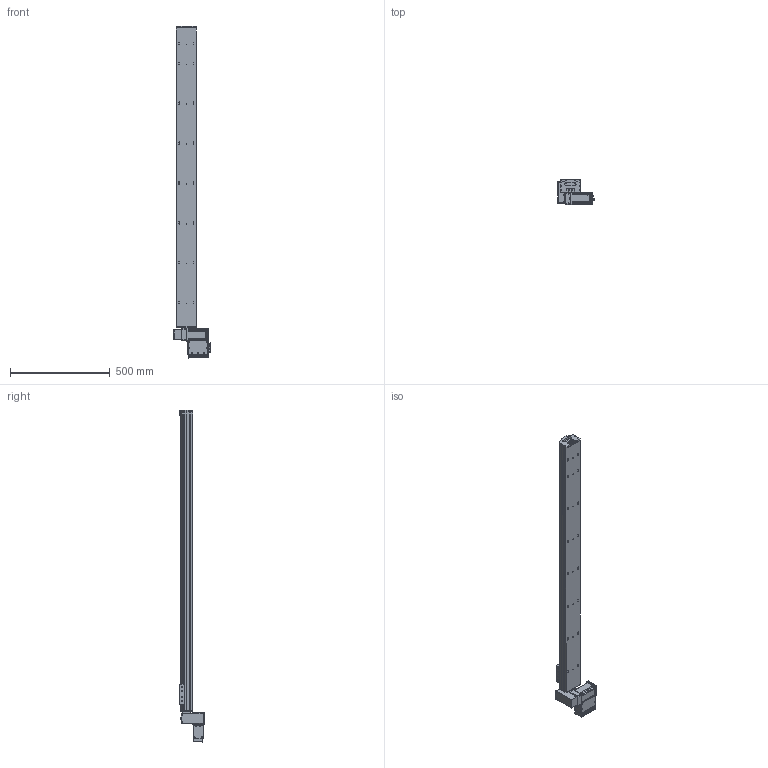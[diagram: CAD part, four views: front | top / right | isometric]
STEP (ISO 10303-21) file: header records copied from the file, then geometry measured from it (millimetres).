
FILE_DESCRIPTION (( 'STEP AP203' ), '1' );
FILE_NAME ('S10 TBH LH S1500.STEP', '2012-06-18T15:29:10', ( 'Conseil Régional Haute-Normandie' ), ( 'Conseil Régional Haute-Normandie' ), 'SwSTEP 2.0', 'SolidWorks 2010', '' );
FILE_SCHEMA (( 'CONFIG_CONTROL_DESIGN' ));
Products named in the file (30): Assem1_7; Couvercle_3; Moteur 60BLDC90A_3; Colonnette ronde_3; Radiateur profil_X2_00E9_X0_ 100x25_3; T_X2_00F4_X0_le Arri_X2_00E8_X0_re_5; palette tbn; plaque de bout s10_Default; Plaque racord_Default; cache t皻e axe_Default; axe1500; S10 TBH LH S1500; Cvis M5 L30_Default; T_X2_00F4_X0_le contre le moteur_5; BU41 Carte Alimentation P05_3; Colonnette_3; BU45 Carte d''axe A11_5; T_X2_00F4_X0_le fond_3; Connecteur rond D10 3cts_5; Connecteur rond D12 4cts_5; Sub D 9cts 90_X2_00B_X0__3; T_X2_00F4_X0_le lat_X2_00E9_X0_rale_5; Vis TF 3 torkx_1_1; cache t皻e_Default; embout; renvoi LH_Default; vis M5 L12_Default; Vis M5 L16-2_Default_1; vis M5 L5_Default; axe 1500
Assembly tree (63 placements, depth 3):
  S10 TBH LH S1500
    renvoi LH_Default
    palette tbn
    vis M5 L12_Default  x4
    vis M5 L5_Default  x4
    cache t皻e_Default  x2
    Assem1_7
      BU41 Carte Alimentation P05_3
      Moteur 60BLDC90A_3
      T_X2_00F4_X0_le fond_3
      T_X2_00F4_X0_le Arri_X2_00E8_X0_re_5
      Vis TF 3 torkx_1_1  x21
      BU45 Carte d''axe A11_5
      Couvercle_3
      Connecteur rond D10 3cts_5  x2
      Colonnette ronde_3
      T_X2_00F4_X0_le lat_X2_00E9_X0_rale_5  x2
      T_X2_00F4_X0_le contre le moteur_5
      Radiateur profil_X2_00E9_X0_ 100x25_3
      Colonnette_3  x2
      Connecteur rond D12 4cts_5
      Sub D 9cts 90_X2_00B_X0__3
    Vis M5 L16-2_Default_1  x4
    Cvis M5 L30_Default  x2
    plaque de bout s10_Default
    Plaque racord_Default
    embout
    cache t皻e axe_Default
    axe1500
      axe 1500
Bounding box: 189.82 x 124.75 x 1666.51 mm (x, y, z)
Volume: 8650438.6 mm3; surface area: 1036302 mm2
Topology: 61 solids, 61 shells, 2321 faces, 5754 edges, 3707 vertices
Faces by surface type: plane 1102, cylinder 994, cone 182, bspline 40, torus 3
Entity records: 48420 total; most frequent: CARTESIAN_POINT 8714, DIRECTION 7809, ORIENTED_EDGE 7088, EDGE_CURVE 3544, AXIS2_PLACEMENT_3D 2901, VERTEX_POINT 2311, VECTOR 2007, LINE 2007
